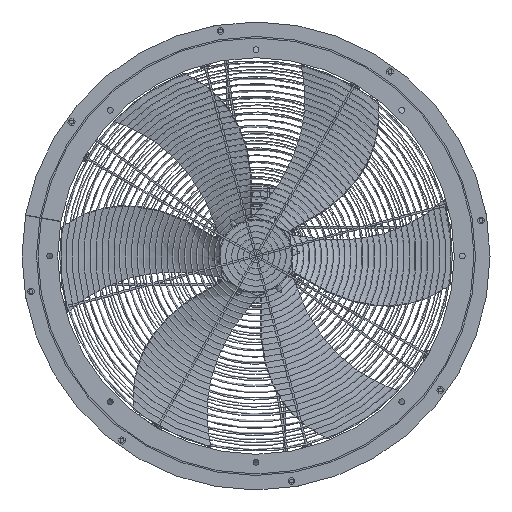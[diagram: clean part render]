
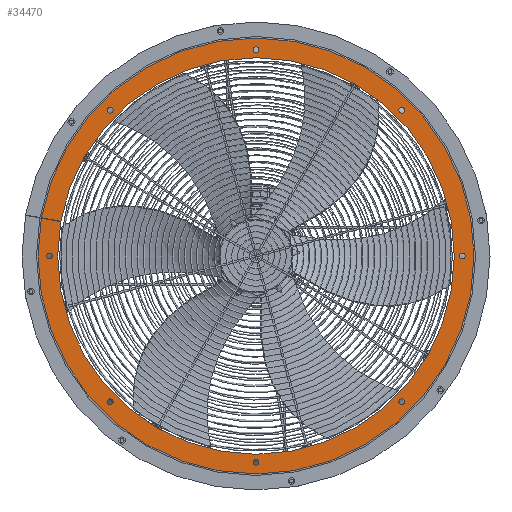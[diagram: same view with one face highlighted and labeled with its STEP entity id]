
A CAD part, left-side view. The second image highlights one B-rep face of the part: STEP entity #34470.
In plain terms, the highlighted planar face has unit normal (-1, 0, 0).
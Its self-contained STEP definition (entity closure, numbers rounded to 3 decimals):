
#686 = EDGE_LOOP ( 'NONE', ( #2824 ) ) ;
#815 = AXIS2_PLACEMENT_3D ( 'NONE', #913, #38267, #22771 ) ;
#913 = CARTESIAN_POINT ( 'NONE',  ( 0., 295.924, -295.924 ) ) ;
#1383 = VERTEX_POINT ( 'NONE', #10658 ) ;
#2229 = CIRCLE ( 'NONE', #19363, 442.5 ) ;
#2311 = CARTESIAN_POINT ( 'NONE',  ( 0., -418.5, 0. ) ) ;
#2423 = DIRECTION ( 'NONE',  ( 1., 0., 0. ) ) ;
#2776 = ORIENTED_EDGE ( 'NONE', *, *, #17246, .T. ) ;
#2824 = ORIENTED_EDGE ( 'NONE', *, *, #22973, .T. ) ;
#2928 = DIRECTION ( 'NONE',  ( 1., 0., 0. ) ) ;
#4875 = ORIENTED_EDGE ( 'NONE', *, *, #31494, .T. ) ;
#5639 = VERTEX_POINT ( 'NONE', #18202 ) ;
#5771 = DIRECTION ( 'NONE',  ( 0., 0.707, -0.707 ) ) ;
#5794 = LINE ( 'NONE', #24383, #36284 ) ;
#5860 = ORIENTED_EDGE ( 'NONE', *, *, #10841, .F. ) ;
#6223 = DIRECTION ( 'NONE',  ( 0., -1., 0. ) ) ;
#6275 = LINE ( 'NONE', #19464, #23007 ) ;
#7396 = DIRECTION ( 'NONE',  ( 1., 0., 0. ) ) ;
#7501 = FACE_BOUND ( 'NONE', #40037, .T. ) ;
#7508 = AXIS2_PLACEMENT_3D ( 'NONE', #20263, #32831, #30158 ) ;
#8732 = EDGE_LOOP ( 'NONE', ( #18483 ) ) ;
#9313 = DIRECTION ( 'NONE',  ( 0., 0.985, 0.175 ) ) ;
#10192 = FACE_OUTER_BOUND ( 'NONE', #26159, .T. ) ;
#10381 = FACE_BOUND ( 'NONE', #15164, .T. ) ;
#10406 = VERTEX_POINT ( 'NONE', #22976 ) ;
#10581 = FACE_BOUND ( 'NONE', #8732, .T. ) ;
#10658 = CARTESIAN_POINT ( 'NONE',  ( 0., -291.682, 300.167 ) ) ;
#10793 = VERTEX_POINT ( 'NONE', #38082 ) ;
#10797 = FACE_BOUND ( 'NONE', #28628, .T. ) ;
#10841 = EDGE_CURVE ( 'NONE', #15785, #30984, #2229, .T. ) ;
#11471 = AXIS2_PLACEMENT_3D ( 'NONE', #34002, #2423, #21220 ) ;
#11923 = CARTESIAN_POINT ( 'NONE',  ( 0., 300.167, 291.682 ) ) ;
#12179 = DIRECTION ( 'NONE',  ( 1., 0., 0. ) ) ;
#12642 = ORIENTED_EDGE ( 'NONE', *, *, #22269, .T. ) ;
#13567 = AXIS2_PLACEMENT_3D ( 'NONE', #27857, #12179, #5771 ) ;
#13669 = VERTEX_POINT ( 'NONE', #20725 ) ;
#13866 = CIRCLE ( 'NONE', #36995, 6. ) ;
#14057 = FACE_BOUND ( 'NONE', #40063, .T. ) ;
#15164 = EDGE_LOOP ( 'NONE', ( #31404 ) ) ;
#15785 = VERTEX_POINT ( 'NONE', #32103 ) ;
#15788 = CARTESIAN_POINT ( 'NONE',  ( 0., 418.5, -6. ) ) ;
#15943 = DIRECTION ( 'NONE',  ( 1., 0., 0. ) ) ;
#16144 = ORIENTED_EDGE ( 'NONE', *, *, #17510, .T. ) ;
#16564 = DIRECTION ( 'NONE',  ( 0., 0., 1. ) ) ;
#16990 = AXIS2_PLACEMENT_3D ( 'NONE', #24781, #18759, #28255 ) ;
#17246 = EDGE_CURVE ( 'NONE', #18498, #18498, #31382, .T. ) ;
#17366 = CIRCLE ( 'NONE', #11471, 402.5 ) ;
#17510 = EDGE_CURVE ( 'NONE', #31500, #31500, #24841, .T. ) ;
#18040 = CIRCLE ( 'NONE', #22045, 6. ) ;
#18095 = DIRECTION ( 'NONE',  ( 1., 0., 0. ) ) ;
#18110 = EDGE_LOOP ( 'NONE', ( #36261 ) ) ;
#18202 = CARTESIAN_POINT ( 'NONE',  ( 0., 291.682, -300.167 ) ) ;
#18483 = ORIENTED_EDGE ( 'NONE', *, *, #33648, .T. ) ;
#18498 = VERTEX_POINT ( 'NONE', #11923 ) ;
#18759 = DIRECTION ( 'NONE',  ( 1., 0., 0. ) ) ;
#19363 = AXIS2_PLACEMENT_3D ( 'NONE', #34976, #15943, #28572 ) ;
#19464 = CARTESIAN_POINT ( 'NONE',  ( 0., 396.385, 69.893 ) ) ;
#19669 = AXIS2_PLACEMENT_3D ( 'NONE', #24522, #18095, #30079 ) ;
#19843 = FACE_BOUND ( 'NONE', #26085, .T. ) ;
#20191 = AXIS2_PLACEMENT_3D ( 'NONE', #32752, #7396, #35460 ) ;
#20263 = CARTESIAN_POINT ( 'NONE',  ( 0., 396.263, 70.585 ) ) ;
#20624 = AXIS2_PLACEMENT_3D ( 'NONE', #2311, #40072, #16564 ) ;
#20725 = CARTESIAN_POINT ( 'NONE',  ( 0., 6., 418.5 ) ) ;
#21220 = DIRECTION ( 'NONE',  ( 0., 0., -1. ) ) ;
#21354 = EDGE_CURVE ( 'NONE', #24871, #10793, #17366, .T. ) ;
#22045 = AXIS2_PLACEMENT_3D ( 'NONE', #38873, #26477, #36994 ) ;
#22269 = EDGE_CURVE ( 'NONE', #10793, #30984, #6275, .T. ) ;
#22771 = DIRECTION ( 'NONE',  ( 0., -0.707, -0.707 ) ) ;
#22947 = FACE_BOUND ( 'NONE', #686, .T. ) ;
#22973 = EDGE_CURVE ( 'NONE', #26763, #26763, #29541, .T. ) ;
#22976 = CARTESIAN_POINT ( 'NONE',  ( 0., -6., -418.5 ) ) ;
#23007 = VECTOR ( 'NONE', #32052, 1000. ) ;
#23230 = CIRCLE ( 'NONE', #815, 6. ) ;
#23846 = EDGE_CURVE ( 'NONE', #1383, #1383, #37546, .T. ) ;
#24081 = CARTESIAN_POINT ( 'NONE',  ( 0., -300.167, -291.682 ) ) ;
#24383 = CARTESIAN_POINT ( 'NONE',  ( 0., 396.263, 70.585 ) ) ;
#24522 = CARTESIAN_POINT ( 'NONE',  ( 0., -295.924, 295.924 ) ) ;
#24781 = CARTESIAN_POINT ( 'NONE',  ( 0., -295.924, -295.924 ) ) ;
#24841 = CIRCLE ( 'NONE', #20191, 6. ) ;
#24871 = VERTEX_POINT ( 'NONE', #27992 ) ;
#26085 = EDGE_LOOP ( 'NONE', ( #2776 ) ) ;
#26159 = EDGE_LOOP ( 'NONE', ( #5860, #34325, #26302, #12642 ) ) ;
#26302 = ORIENTED_EDGE ( 'NONE', *, *, #21354, .T. ) ;
#26477 = DIRECTION ( 'NONE',  ( 1., 0., 0. ) ) ;
#26763 = VERTEX_POINT ( 'NONE', #24081 ) ;
#27857 = CARTESIAN_POINT ( 'NONE',  ( 0., 295.924, 295.924 ) ) ;
#27992 = CARTESIAN_POINT ( 'NONE',  ( 0., 396.263, 70.585 ) ) ;
#28255 = DIRECTION ( 'NONE',  ( 0., -0.707, 0.707 ) ) ;
#28572 = DIRECTION ( 'NONE',  ( 0., 0., -1. ) ) ;
#28573 = ORIENTED_EDGE ( 'NONE', *, *, #23846, .T. ) ;
#28628 = EDGE_LOOP ( 'NONE', ( #4875 ) ) ;
#28900 = EDGE_CURVE ( 'NONE', #24871, #15785, #5794, .T. ) ;
#29179 = CARTESIAN_POINT ( 'NONE',  ( 0., 435.777, 76.839 ) ) ;
#29541 = CIRCLE ( 'NONE', #16990, 6. ) ;
#29782 = VERTEX_POINT ( 'NONE', #32864 ) ;
#30079 = DIRECTION ( 'NONE',  ( 0., 0.707, 0.707 ) ) ;
#30158 = DIRECTION ( 'NONE',  ( 0., 0., -1. ) ) ;
#30984 = VERTEX_POINT ( 'NONE', #29179 ) ;
#31382 = CIRCLE ( 'NONE', #13567, 6. ) ;
#31404 = ORIENTED_EDGE ( 'NONE', *, *, #38052, .T. ) ;
#31494 = EDGE_CURVE ( 'NONE', #10406, #10406, #13866, .T. ) ;
#31500 = VERTEX_POINT ( 'NONE', #15788 ) ;
#31591 = CARTESIAN_POINT ( 'NONE',  ( 0., 0., -418.5 ) ) ;
#32052 = DIRECTION ( 'NONE',  ( 0., 0.985, 0.174 ) ) ;
#32103 = CARTESIAN_POINT ( 'NONE',  ( 0., 435.643, 77.6 ) ) ;
#32422 = PLANE ( 'NONE',  #7508 ) ;
#32752 = CARTESIAN_POINT ( 'NONE',  ( 0., 418.5, 0. ) ) ;
#32831 = DIRECTION ( 'NONE',  ( 1., 0., 0. ) ) ;
#32864 = CARTESIAN_POINT ( 'NONE',  ( 0., -418.5, 6. ) ) ;
#33648 = EDGE_CURVE ( 'NONE', #29782, #29782, #38434, .T. ) ;
#34002 = CARTESIAN_POINT ( 'NONE',  ( 0., 0., 0. ) ) ;
#34325 = ORIENTED_EDGE ( 'NONE', *, *, #28900, .F. ) ;
#34470 = ADVANCED_FACE ( 'NONE', ( #39072, #10581, #10797, #14057, #10192, #10381, #22947, #7501, #19843 ), #32422, .F. ) ;
#34921 = EDGE_CURVE ( 'NONE', #13669, #13669, #18040, .T. ) ;
#34976 = CARTESIAN_POINT ( 'NONE',  ( 0., 0., 0. ) ) ;
#35460 = DIRECTION ( 'NONE',  ( 0., 0., -1. ) ) ;
#36261 = ORIENTED_EDGE ( 'NONE', *, *, #34921, .T. ) ;
#36284 = VECTOR ( 'NONE', #9313, 1000. ) ;
#36994 = DIRECTION ( 'NONE',  ( 0., 1., 0. ) ) ;
#36995 = AXIS2_PLACEMENT_3D ( 'NONE', #31591, #2928, #6223 ) ;
#37546 = CIRCLE ( 'NONE', #19669, 6. ) ;
#38052 = EDGE_CURVE ( 'NONE', #5639, #5639, #23230, .T. ) ;
#38082 = CARTESIAN_POINT ( 'NONE',  ( 0., 396.385, 69.893 ) ) ;
#38267 = DIRECTION ( 'NONE',  ( 1., 0., 0. ) ) ;
#38434 = CIRCLE ( 'NONE', #20624, 6. ) ;
#38873 = CARTESIAN_POINT ( 'NONE',  ( 0., 0., 418.5 ) ) ;
#39072 = FACE_BOUND ( 'NONE', #18110, .T. ) ;
#40037 = EDGE_LOOP ( 'NONE', ( #28573 ) ) ;
#40063 = EDGE_LOOP ( 'NONE', ( #16144 ) ) ;
#40072 = DIRECTION ( 'NONE',  ( 1., 0., 0. ) ) ;
